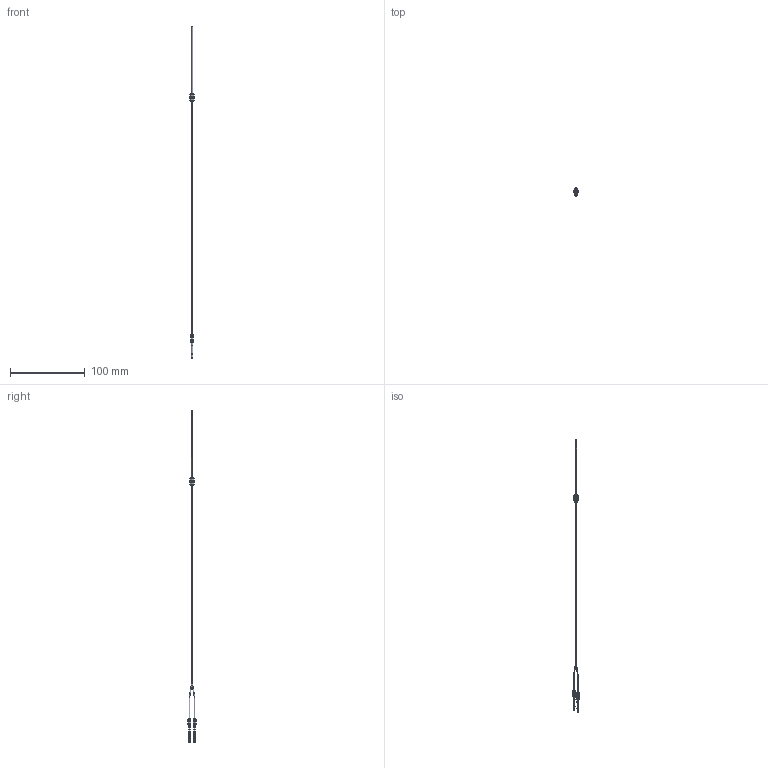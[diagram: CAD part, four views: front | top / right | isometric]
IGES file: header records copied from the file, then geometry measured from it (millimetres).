
Start section: SolidWorks IGES file using analytic representation for surfaces
Bounding box: 6.5 x 11 x 444.01 mm (x, y, z)
Surface area: 3881 mm2 (no closed solid volume)
Topology: 0 solids, 0 shells, 392 faces, 4491 edges, 4491 vertices
Faces by surface type: revolution 205, bspline 187
